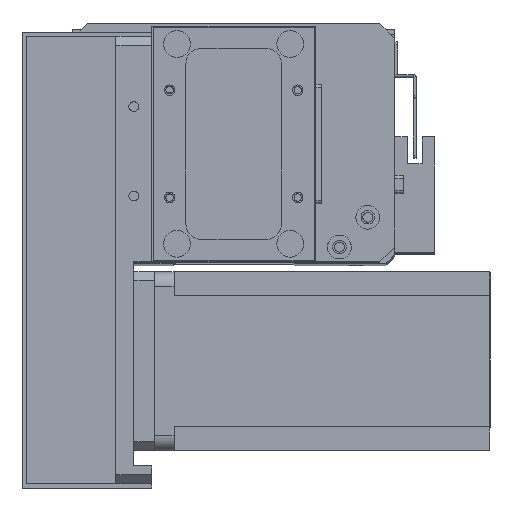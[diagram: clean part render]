
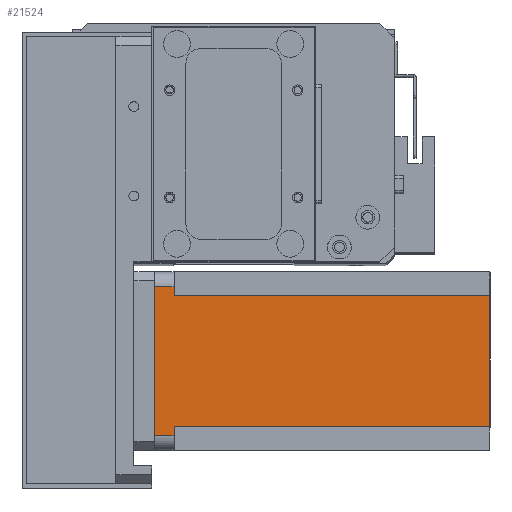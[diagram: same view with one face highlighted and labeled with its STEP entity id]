
A CAD part, top view. The second image highlights one B-rep face of the part: STEP entity #21524.
In plain terms, the highlighted planar face has unit normal (0, 0, 1) as drawn and (0, 1, 0) by its records, which use the part's own axes.
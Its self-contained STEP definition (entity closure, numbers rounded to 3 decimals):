
#433 = EDGE_CURVE ( 'NONE', #24402, #7075, #23214, .T. ) ;
#772 = CARTESIAN_POINT ( 'NONE',  ( 5., 60., -112.5 ) ) ;
#1212 = CARTESIAN_POINT ( 'NONE',  ( 8., 60., -6.5 ) ) ;
#1964 = ORIENTED_EDGE ( 'NONE', *, *, #9021, .T. ) ;
#2178 = ORIENTED_EDGE ( 'NONE', *, *, #8720, .T. ) ;
#2413 = VERTEX_POINT ( 'NONE', #14791 ) ;
#2525 = ORIENTED_EDGE ( 'NONE', *, *, #8455, .F. ) ;
#2562 = EDGE_LOOP ( 'NONE', ( #23600, #13771, #2525, #22733, #13237, #28784, #2178, #1964 ) ) ;
#3504 = VECTOR ( 'NONE', #18234, 1000. ) ;
#4692 = CARTESIAN_POINT ( 'NONE',  ( 8., 60., -112.5 ) ) ;
#5010 = DIRECTION ( 'NONE',  ( 0., 0., -1. ) ) ;
#5509 = DIRECTION ( 'NONE',  ( 0., 0., -1. ) ) ;
#5631 = CARTESIAN_POINT ( 'NONE',  ( 55., 60., -112.5 ) ) ;
#6453 = LINE ( 'NONE', #7503, #17826 ) ;
#6473 = LINE ( 'NONE', #5631, #23457 ) ;
#6565 = AXIS2_PLACEMENT_3D ( 'NONE', #23835, #28167, #15379 ) ;
#7075 = VERTEX_POINT ( 'NONE', #20304 ) ;
#7503 = CARTESIAN_POINT ( 'NONE',  ( 8., 60., -6.5 ) ) ;
#7925 = DIRECTION ( 'NONE',  ( -1., 0., 0. ) ) ;
#8365 = EDGE_CURVE ( 'NONE', #24402, #18161, #6473, .T. ) ;
#8455 = EDGE_CURVE ( 'NONE', #11547, #18161, #9769, .T. ) ;
#8457 = EDGE_CURVE ( 'NONE', #2413, #11547, #20847, .T. ) ;
#8632 = EDGE_CURVE ( 'NONE', #2413, #22032, #28156, .T. ) ;
#8656 = VECTOR ( 'NONE', #29007, 1000. ) ;
#8683 = EDGE_CURVE ( 'NONE', #27280, #22032, #26133, .T. ) ;
#8720 = EDGE_CURVE ( 'NONE', #27280, #14331, #6453, .T. ) ;
#9021 = EDGE_CURVE ( 'NONE', #14331, #7075, #14733, .T. ) ;
#9769 = LINE ( 'NONE', #18970, #15119 ) ;
#11547 = VERTEX_POINT ( 'NONE', #18408 ) ;
#13237 = ORIENTED_EDGE ( 'NONE', *, *, #8632, .T. ) ;
#13771 = ORIENTED_EDGE ( 'NONE', *, *, #8365, .T. ) ;
#14331 = VERTEX_POINT ( 'NONE', #18380 ) ;
#14733 = LINE ( 'NONE', #772, #8656 ) ;
#14791 = CARTESIAN_POINT ( 'NONE',  ( 52., 60., -112.5 ) ) ;
#15119 = VECTOR ( 'NONE', #18514, 1000. ) ;
#15379 = DIRECTION ( 'NONE',  ( 0., 0., 1. ) ) ;
#16912 = VECTOR ( 'NONE', #23801, 1000. ) ;
#17826 = VECTOR ( 'NONE', #7925, 1000. ) ;
#18161 = VERTEX_POINT ( 'NONE', #19434 ) ;
#18234 = DIRECTION ( 'NONE',  ( 0., 0., 1. ) ) ;
#18380 = CARTESIAN_POINT ( 'NONE',  ( 5., 60., -6.5 ) ) ;
#18408 = CARTESIAN_POINT ( 'NONE',  ( 52., 60., -6.5 ) ) ;
#18514 = DIRECTION ( 'NONE',  ( 1., 0., 0. ) ) ;
#18733 = CARTESIAN_POINT ( 'NONE',  ( 52., 60., -112.5 ) ) ;
#18921 = CARTESIAN_POINT ( 'NONE',  ( 8., 60., -112.5 ) ) ;
#18970 = CARTESIAN_POINT ( 'NONE',  ( 52., 60., -6.5 ) ) ;
#19434 = CARTESIAN_POINT ( 'NONE',  ( 55., 60., -6.5 ) ) ;
#19601 = PLANE ( 'NONE',  #6565 ) ;
#20304 = CARTESIAN_POINT ( 'NONE',  ( 5., 60., 0. ) ) ;
#20495 = VECTOR ( 'NONE', #5010, 1000. ) ;
#20847 = LINE ( 'NONE', #18733, #3504 ) ;
#21169 = VECTOR ( 'NONE', #22544, 1000. ) ;
#21524 = ADVANCED_FACE ( 'NONE', ( #27703 ), #19601, .T. ) ;
#22032 = VERTEX_POINT ( 'NONE', #18921 ) ;
#22544 = DIRECTION ( 'NONE',  ( -1., 0., 0. ) ) ;
#22634 = CARTESIAN_POINT ( 'NONE',  ( 0., 60., -112.5 ) ) ;
#22733 = ORIENTED_EDGE ( 'NONE', *, *, #8457, .F. ) ;
#23214 = LINE ( 'NONE', #25719, #16912 ) ;
#23357 = CARTESIAN_POINT ( 'NONE',  ( 55., 60., 0. ) ) ;
#23457 = VECTOR ( 'NONE', #5509, 1000. ) ;
#23600 = ORIENTED_EDGE ( 'NONE', *, *, #433, .F. ) ;
#23801 = DIRECTION ( 'NONE',  ( -1., 0., 0. ) ) ;
#23835 = CARTESIAN_POINT ( 'NONE',  ( 0., 60., -112.5 ) ) ;
#24402 = VERTEX_POINT ( 'NONE', #23357 ) ;
#25719 = CARTESIAN_POINT ( 'NONE',  ( 0., 60., 0. ) ) ;
#26133 = LINE ( 'NONE', #4692, #20495 ) ;
#27280 = VERTEX_POINT ( 'NONE', #1212 ) ;
#27703 = FACE_OUTER_BOUND ( 'NONE', #2562, .T. ) ;
#28156 = LINE ( 'NONE', #22634, #21169 ) ;
#28167 = DIRECTION ( 'NONE',  ( 0., 1., 0. ) ) ;
#28784 = ORIENTED_EDGE ( 'NONE', *, *, #8683, .F. ) ;
#29007 = DIRECTION ( 'NONE',  ( 0., 0., 1. ) ) ;
